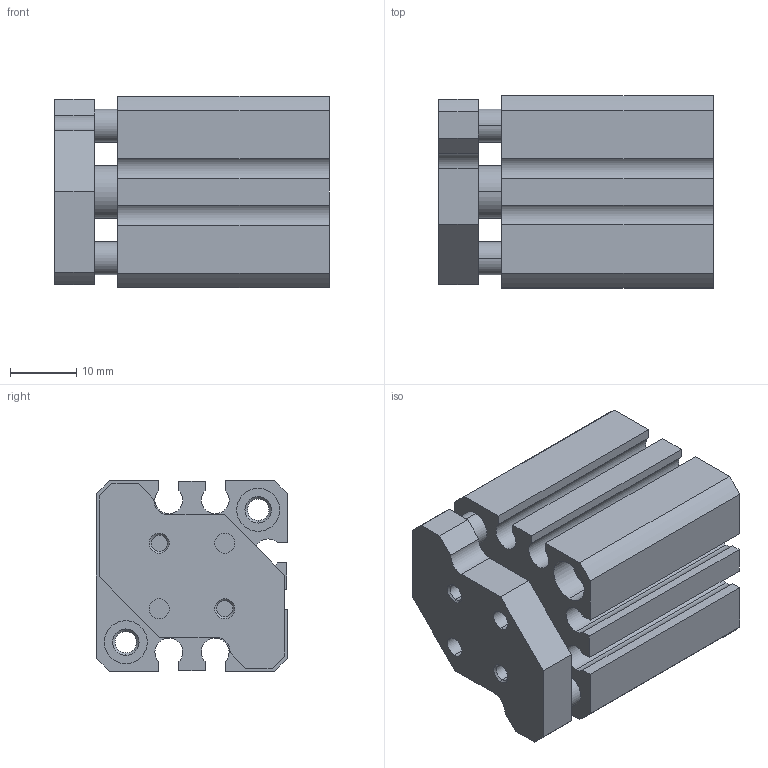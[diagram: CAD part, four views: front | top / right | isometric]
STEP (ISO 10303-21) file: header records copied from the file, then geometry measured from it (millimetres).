
FILE_DESCRIPTION (( 'STEP AP203' ), '1' );
FILE_NAME ('CCMG16-10.STEP', '2020-04-01T17:50:08', ( '' ), ( '' ), 'SwSTEP 2.0', 'SolidWorks 2019', '' );
FILE_SCHEMA (( 'CONFIG_CONTROL_DESIGN' ));
Length unit declared in the file: millimetre
Products named in the file (1): CCMG16-10
Bounding box: 41.5 x 29 x 29 mm (x, y, z)
Volume: 23914.5 mm3; surface area: 13724 mm2
Topology: 2 solids, 2 shells, 144 faces, 348 edges, 222 vertices
Faces by surface type: cylinder 68, plane 52, cone 24
Entity records: 4307 total; most frequent: DIRECTION 790, CARTESIAN_POINT 711, ORIENTED_EDGE 688, EDGE_CURVE 344, AXIS2_PLACEMENT_3D 301, VERTEX_POINT 222, LINE 188, VECTOR 188
